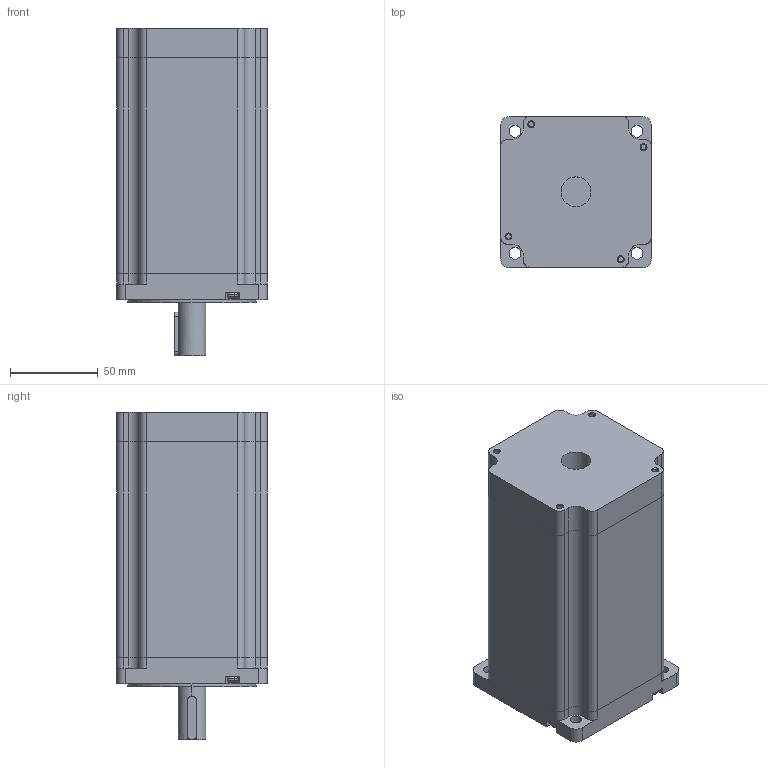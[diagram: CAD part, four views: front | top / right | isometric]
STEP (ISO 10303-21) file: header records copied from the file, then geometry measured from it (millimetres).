
FILE_DESCRIPTION (( 'STEP AP214' ), '1' );
FILE_NAME ('86J18156-845(K).STEP', '2016-05-14T07:42:32', ( 'User' ), ( 'china' ), 'SwSTEP 2.0', 'SolidWorks 2010', '' );
FILE_SCHEMA (( 'AUTOMOTIVE_DESIGN' ));
Length unit declared in the file: millimetre
Products named in the file (6): 儂旯; 86奻裔 湍瑩羞; 綴裔; 蹟佪芛; 25MM瑩; 86J18156-845(K)
Assembly tree (8 placements, depth 2):
  86J18156-845(K)
    綴裔
    蹟佪芛  x4
    25MM瑩
    儂旯
    86奻裔 湍瑩羞
Bounding box: 86 x 86 x 187 mm (x, y, z)
Volume: 1050031.4 mm3; surface area: 99813.3 mm2
Topology: 8 solids, 8 shells, 276 faces, 731 edges, 479 vertices
Faces by surface type: plane 129, cylinder 121, torus 16, cone 10
Entity records: 6367 total; most frequent: CARTESIAN_POINT 1113, DIRECTION 1111, ORIENTED_EDGE 1018, EDGE_CURVE 509, AXIS2_PLACEMENT_3D 405, VERTEX_POINT 335, VECTOR 301, LINE 301
